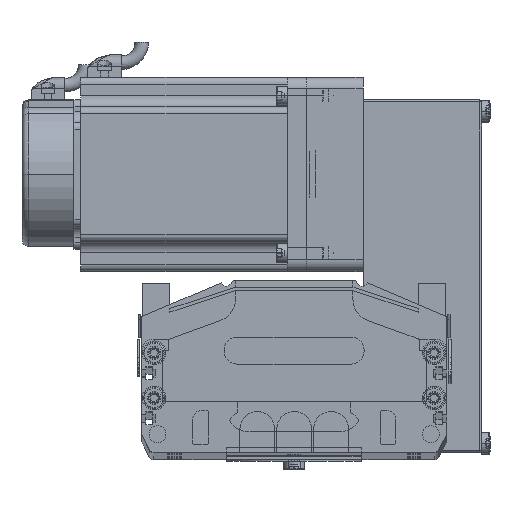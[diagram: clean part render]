
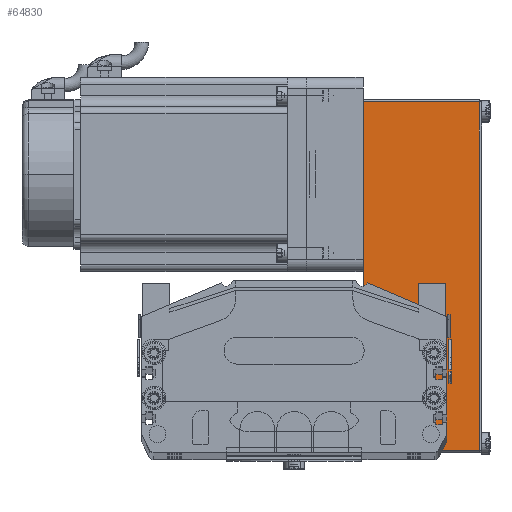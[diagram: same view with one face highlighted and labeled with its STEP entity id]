
A CAD part, top view. The second image highlights one B-rep face of the part: STEP entity #64830.
In plain terms, the highlighted planar face has unit normal (0, 0, 1) as drawn and (0, -1, 0) by its records, which use the part's own axes.
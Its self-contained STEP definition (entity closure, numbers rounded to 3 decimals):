
#7056 = CARTESIAN_POINT ( 'NONE',  ( 32., -40., 0. ) ) ;
#7146 = VECTOR ( 'NONE', #7323, 1000. ) ;
#7184 = LINE ( 'NONE', #7056, #7146 ) ;
#7217 = CARTESIAN_POINT ( 'NONE',  ( -123.2, -40., 0. ) ) ;
#7323 = DIRECTION ( 'NONE',  ( 1., 0., 0. ) ) ;
#8693 = CARTESIAN_POINT ( 'NONE',  ( 31., -40., 51.5 ) ) ;
#8948 = LINE ( 'NONE', #8955, #8954 ) ;
#8952 = DIRECTION ( 'NONE',  ( 0., 0., -1. ) ) ;
#8954 = VECTOR ( 'NONE', #8952, 1000. ) ;
#8955 = CARTESIAN_POINT ( 'NONE',  ( -123.2, -40., 52.5 ) ) ;
#9074 = DIRECTION ( 'NONE',  ( -1., 0., 0. ) ) ;
#9075 = VECTOR ( 'NONE', #9074, 1000. ) ;
#9076 = CARTESIAN_POINT ( 'NONE',  ( 32., -40., 51.5 ) ) ;
#9080 = CARTESIAN_POINT ( 'NONE',  ( -123.2, -40., 51.5 ) ) ;
#9140 = LINE ( 'NONE', #9076, #9075 ) ;
#9625 = DIRECTION ( 'NONE',  ( 0., 0., 1. ) ) ;
#9626 = VECTOR ( 'NONE', #9625, 1000. ) ;
#9629 = DIRECTION ( 'NONE',  ( -1., 0., 0. ) ) ;
#9630 = DIRECTION ( 'NONE',  ( 0., 1., 0. ) ) ;
#9631 = CARTESIAN_POINT ( 'NONE',  ( 31., -40., 52.5 ) ) ;
#9632 = LINE ( 'NONE', #9631, #9626 ) ;
#9653 = CARTESIAN_POINT ( 'NONE',  ( 31., -40., 0. ) ) ;
#9671 = CARTESIAN_POINT ( 'NONE',  ( 32., -40., 52.5 ) ) ;
#9677 = AXIS2_PLACEMENT_3D ( 'NONE', #9671, #9630, #9629 ) ;
#9680 = FACE_OUTER_BOUND ( 'NONE', #64611, .T. ) ;
#9685 = PLANE ( 'NONE',  #9677 ) ;
#64016 = EDGE_CURVE ( 'NONE', #64024, #64774, #7184, .T. ) ;
#64024 = VERTEX_POINT ( 'NONE', #7217 ) ;
#64529 = ORIENTED_EDGE ( 'NONE', *, *, #64622, .T. ) ;
#64530 = VERTEX_POINT ( 'NONE', #8693 ) ;
#64580 = ORIENTED_EDGE ( 'NONE', *, *, #64016, .T. ) ;
#64600 = ORIENTED_EDGE ( 'NONE', *, *, #64602, .T. ) ;
#64602 = EDGE_CURVE ( 'NONE', #64530, #64613, #9140, .T. ) ;
#64611 = EDGE_LOOP ( 'NONE', ( #64580, #64831, #64600, #64529 ) ) ;
#64613 = VERTEX_POINT ( 'NONE', #9080 ) ;
#64622 = EDGE_CURVE ( 'NONE', #64613, #64024, #8948, .T. ) ;
#64774 = VERTEX_POINT ( 'NONE', #9653 ) ;
#64830 = ADVANCED_FACE ( 'NONE', ( #9680 ), #9685, .F. ) ;
#64831 = ORIENTED_EDGE ( 'NONE', *, *, #64832, .T. ) ;
#64832 = EDGE_CURVE ( 'NONE', #64774, #64530, #9632, .T. ) ;
